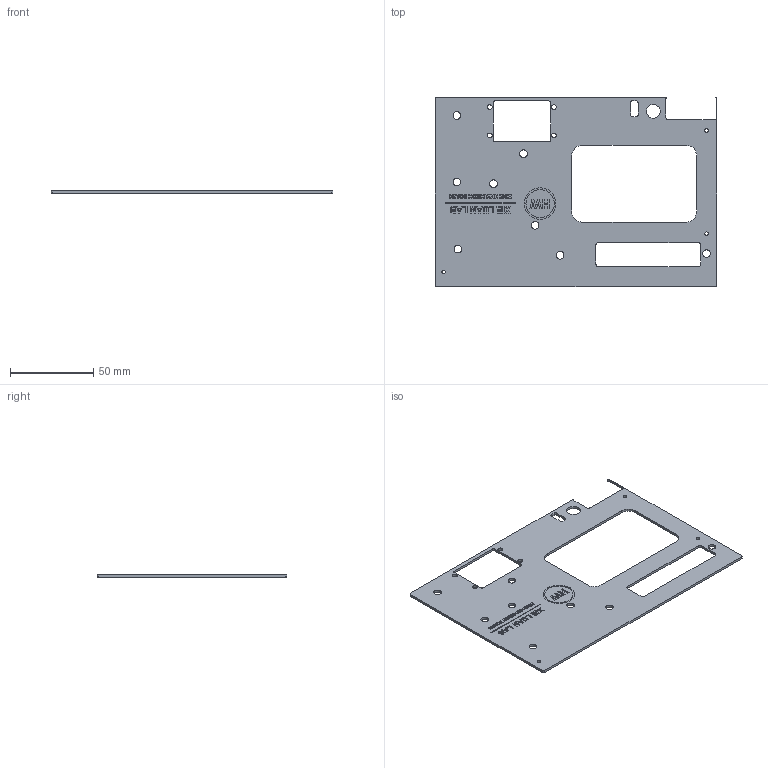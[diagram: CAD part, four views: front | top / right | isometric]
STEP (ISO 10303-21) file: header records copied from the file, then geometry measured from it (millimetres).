
FILE_DESCRIPTION(('Open CASCADE Model'),'2;1');
FILE_NAME('Open CASCADE Shape Model','2026-11-10T13:03:27',('Author'),( 'Open CASCADE'),'Open CASCADE STEP processor 7.7','Open CASCADE 7.7' ,'Unknown');
FILE_SCHEMA(('AUTOMOTIVE_DESIGN { 1 0 10303 214 1 1 1 1 }'));
Length unit declared in the file: millimetre
Products named in the file (1): Open CASCADE STEP translator 7.7 3
Bounding box: 169.3 x 113.95 x 1.5 mm (x, y, z)
Volume: 20055.7 mm3; surface area: 29170.3 mm2
Topology: 1 solids, 1 shells, 544 faces, 1491 edges, 994 vertices
Faces by surface type: plane 328, extrusion 174, cylinder 42
Full cylindrical faces by diameter (mm): 2.1 x3, 2.9 x4, 4.6 x8, 8.3 x1, 17 x1, 19 x1
Entity records: 36803 total; most frequent: CARTESIAN_POINT 8062, DIRECTION 4652, VECTOR 3695, LINE 3521, ORIENTED_EDGE 2982, PCURVE 2982, DEFINITIONAL_REPRESENTATION 2982, EDGE_CURVE 1491
